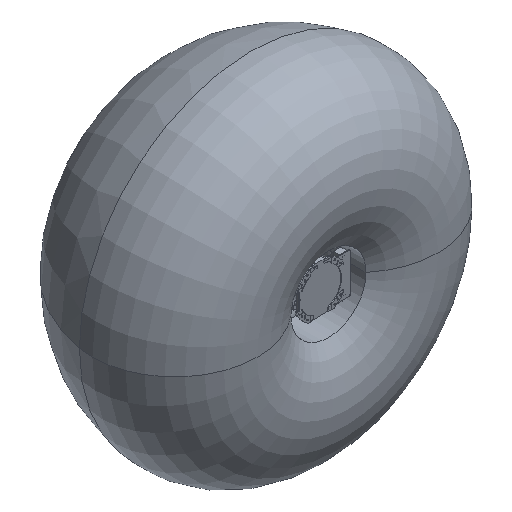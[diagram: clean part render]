
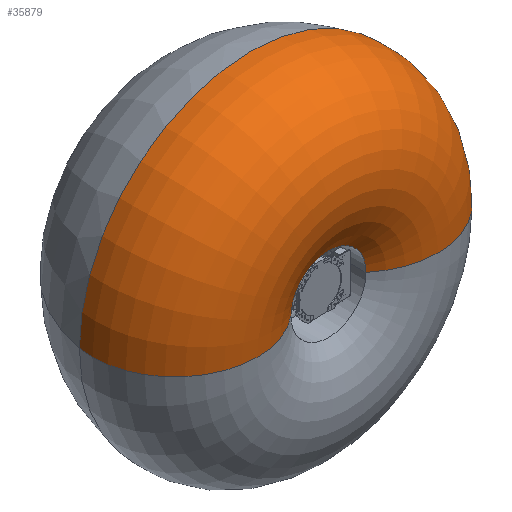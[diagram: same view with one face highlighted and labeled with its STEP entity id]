
A CAD part, isometric view. The second image highlights one B-rep face of the part: STEP entity #35879.
In plain terms, the highlighted toroidal (fillet/blend) face has major radius 1398.14 mm and minor radius 1275.77 mm.
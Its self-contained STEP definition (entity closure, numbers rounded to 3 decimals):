
#1715 = FACE_OUTER_BOUND ( 'NONE', #92016, .T. ) ;
#21389 = VERTEX_POINT ( 'NONE', #112110 ) ;
#35879 = ADVANCED_FACE ( 'NONE', ( #1715 ), #206890, .T. ) ;
#40550 = CARTESIAN_POINT ( 'NONE',  ( 157.524, -1393.424, 0. ) ) ;
#45503 = CARTESIAN_POINT ( 'NONE',  ( -1240.613, -413.107, 0. ) ) ;
#62232 = DIRECTION ( 'NONE',  ( 0., -1., 0. ) ) ;
#62369 = AXIS2_PLACEMENT_3D ( 'NONE', #78195, #62232, #83406 ) ;
#64336 = DIRECTION ( 'NONE',  ( 1., 0., 0. ) ) ;
#65270 = DIRECTION ( 'NONE',  ( 1., 0., 0. ) ) ;
#65425 = DIRECTION ( 'NONE',  ( 0., 0., 1. ) ) ;
#67035 = VERTEX_POINT ( 'NONE', #174557 ) ;
#78195 = CARTESIAN_POINT ( 'NONE',  ( 157.524, -191.571, 0. ) ) ;
#81092 = CIRCLE ( 'NONE', #225399, 581.694 ) ;
#83406 = DIRECTION ( 'NONE',  ( 1., 0., 0. ) ) ;
#83945 = EDGE_CURVE ( 'NONE', #67035, #21389, #185984, .T. ) ;
#91531 = DIRECTION ( 'NONE',  ( 1., 0., 0. ) ) ;
#92016 = EDGE_LOOP ( 'NONE', ( #105612, #156753, #218250, #249522 ) ) ;
#92212 = CIRCLE ( 'NONE', #240640, 1275.774 ) ;
#94683 = CARTESIAN_POINT ( 'NONE',  ( 1555.66, -413.107, 0. ) ) ;
#105612 = ORIENTED_EDGE ( 'NONE', *, *, #251512, .T. ) ;
#112110 = CARTESIAN_POINT ( 'NONE',  ( -424.171, -1393.424, 0. ) ) ;
#115924 = DIRECTION ( 'NONE',  ( 0., 0., -1. ) ) ;
#142360 = DIRECTION ( 'NONE',  ( 0., -1., 0. ) ) ;
#143664 = CARTESIAN_POINT ( 'NONE',  ( 157.524, -413.107, 0. ) ) ;
#143963 = EDGE_CURVE ( 'NONE', #262077, #203711, #92212, .T. ) ;
#154532 = DIRECTION ( 'NONE',  ( -1., 0., 0. ) ) ;
#156753 = ORIENTED_EDGE ( 'NONE', *, *, #83945, .T. ) ;
#174557 = CARTESIAN_POINT ( 'NONE',  ( -2497.005, -191.571, 0. ) ) ;
#185984 = CIRCLE ( 'NONE', #207200, 1275.774 ) ;
#192312 = CARTESIAN_POINT ( 'NONE',  ( 2812.053, -191.571, 0. ) ) ;
#203711 = VERTEX_POINT ( 'NONE', #206030 ) ;
#206030 = CARTESIAN_POINT ( 'NONE',  ( 739.218, -1393.424, 0. ) ) ;
#206890 = TOROIDAL_SURFACE ( 'NONE', #232272, 1398.137, 1275.774 ) ;
#207200 = AXIS2_PLACEMENT_3D ( 'NONE', #45503, #65425, #91531 ) ;
#218250 = ORIENTED_EDGE ( 'NONE', *, *, #224041, .F. ) ;
#224041 = EDGE_CURVE ( 'NONE', #203711, #21389, #81092, .T. ) ;
#225399 = AXIS2_PLACEMENT_3D ( 'NONE', #40550, #243630, #64336 ) ;
#232272 = AXIS2_PLACEMENT_3D ( 'NONE', #143664, #142360, #65270 ) ;
#240640 = AXIS2_PLACEMENT_3D ( 'NONE', #94683, #115924, #154532 ) ;
#243630 = DIRECTION ( 'NONE',  ( 0., -1., 0. ) ) ;
#244056 = CIRCLE ( 'NONE', #62369, 2654.529 ) ;
#249522 = ORIENTED_EDGE ( 'NONE', *, *, #143963, .F. ) ;
#251512 = EDGE_CURVE ( 'NONE', #262077, #67035, #244056, .T. ) ;
#262077 = VERTEX_POINT ( 'NONE', #192312 ) ;
